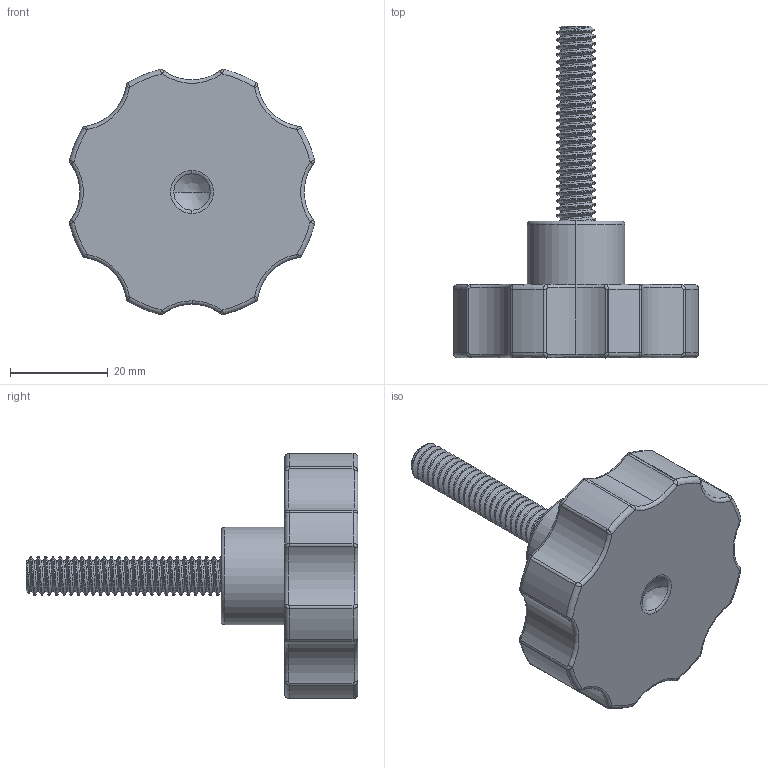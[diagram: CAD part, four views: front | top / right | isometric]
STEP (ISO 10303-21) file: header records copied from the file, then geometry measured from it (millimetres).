
FILE_DESCRIPTION (( 'STEP AP214' ), '1' );
FILE_NAME ('D50M8H40.STEP', '2020-06-30T10:24:42', ( '' ), ( '' ), 'SwSTEP 2.0', 'SolidWorks 2018', '' );
FILE_SCHEMA (( 'AUTOMOTIVE_DESIGN' ));
Length unit declared in the file: millimetre
Products named in the file (3): D50M8H40 Part 2; D50M8H40 Part 1; D50M8H40
Assembly tree (2 placements, depth 2):
  D50M8H40
    D50M8H40 Part 1
    D50M8H40 Part 2
Bounding box: 50.33 x 68 x 50.33 mm (x, y, z)
Volume: 21396 mm3; surface area: 12708.1 mm2
Topology: 2 solids, 2 shells, 203 faces, 500 edges, 307 vertices
Faces by surface type: cylinder 107, torus 42, bspline 40, plane 11, cone 3
Entity records: 13254 total; most frequent: CARTESIAN_POINT 8860, ORIENTED_EDGE 996, DIRECTION 836, EDGE_CURVE 498, AXIS2_PLACEMENT_3D 362, VERTEX_POINT 307, EDGE_LOOP 211, FACE_OUTER_BOUND 203
